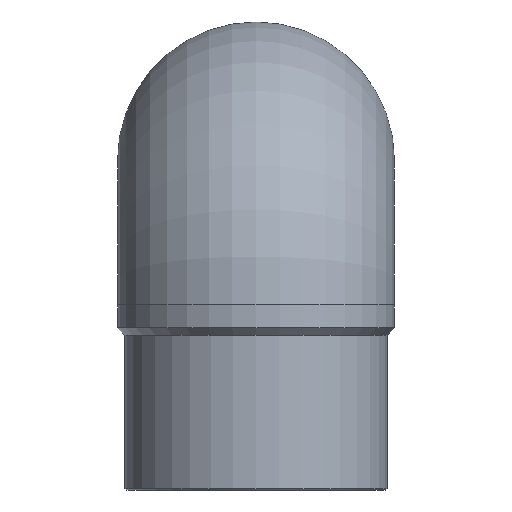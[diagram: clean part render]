
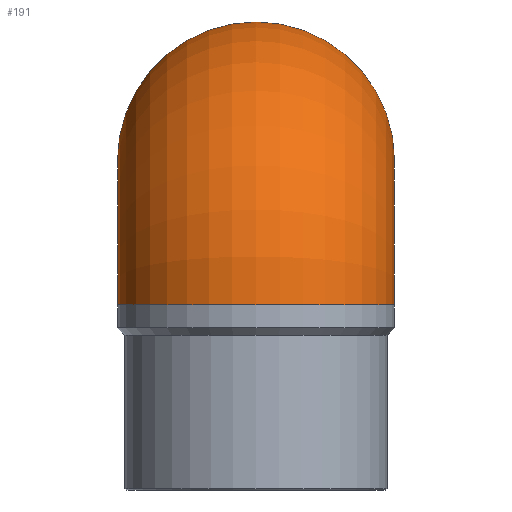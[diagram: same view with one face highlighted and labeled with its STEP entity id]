
A CAD part, left-side view. The second image highlights one B-rep face of the part: STEP entity #191.
In plain terms, the highlighted toroidal (fillet/blend) face has major radius 110 mm and minor radius 105.5 mm.
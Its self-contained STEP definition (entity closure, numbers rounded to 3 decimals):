
#20=TOROIDAL_SURFACE('',#231,110.,105.5);
#59=ORIENTED_EDGE('',*,*,#77,.F.);
#60=ORIENTED_EDGE('',*,*,#79,.T.);
#77=EDGE_CURVE('',#96,#96,#114,.F.);
#79=EDGE_CURVE('',#98,#98,#116,.F.);
#96=VERTEX_POINT('',#312);
#98=VERTEX_POINT('',#318);
#114=CIRCLE('',#217,105.5);
#116=CIRCLE('',#221,105.5);
#142=EDGE_LOOP('',(#59));
#143=EDGE_LOOP('',(#60));
#169=FACE_BOUND('',#142,.T.);
#170=FACE_BOUND('',#143,.T.);
#191=ADVANCED_FACE('',(#169,#170),#20,.T.);
#217=AXIS2_PLACEMENT_3D('',#311,#256,#257);
#221=AXIS2_PLACEMENT_3D('',#317,#264,#265);
#231=AXIS2_PLACEMENT_3D('',#365,#284,#285);
#256=DIRECTION('',(-1.,0.,0.));
#257=DIRECTION('',(0.,0.,-1.));
#264=DIRECTION('',(0.,0.,-1.));
#265=DIRECTION('',(1.,0.,0.));
#284=DIRECTION('',(0.,1.,0.));
#285=DIRECTION('',(0.,0.,1.));
#311=CARTESIAN_POINT('',(110.,0.,251.));
#312=CARTESIAN_POINT('',(110.,0.,145.5));
#317=CARTESIAN_POINT('',(0.,0.,141.));
#318=CARTESIAN_POINT('',(105.5,0.,141.));
#365=CARTESIAN_POINT('',(110.,0.,141.));
